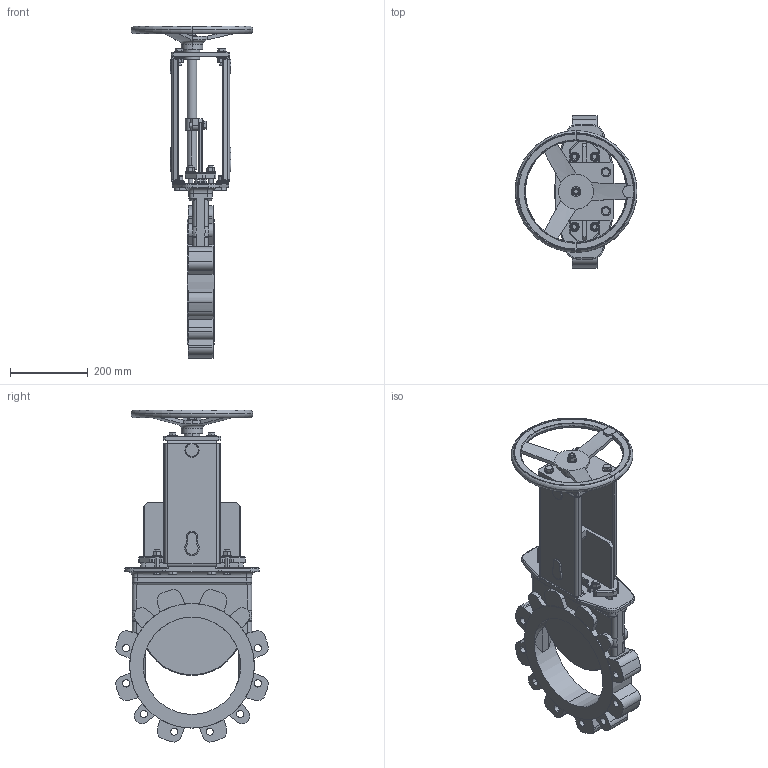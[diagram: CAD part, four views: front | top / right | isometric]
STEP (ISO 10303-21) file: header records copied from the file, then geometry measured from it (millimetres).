
FILE_DESCRIPTION(('STEP AP203'),'1');
FILE_NAME('G:/KONSTRUK/3-d block för CD/WB VALVE/HAND WHEEL/250/WB14-DN250-HW.stp','2012-11-30T13:15:30',(' '),(' '),'Spatial InterOp 3D',' ',' ');
FILE_SCHEMA(('CONFIG_CONTROL_DESIGN'));
Length unit declared in the file: millimetre
Products named in the file (7): 1; 2; 3; 4; 5; 6; 7
Bounding box: 313 x 391.52 x 852.46 mm (x, y, z)
Volume: 7868295.9 mm3; surface area: 1089773.7 mm2
Topology: 7 solids, 15 shells, 1257 faces, 3051 edges, 1902 vertices
Faces by surface type: plane 501, cylinder 421, cone 241, torus 78, sphere 8, bspline 8
Entity records: 42109 total; most frequent: CARTESIAN_POINT 12049, DIRECTION 6447, ORIENTED_EDGE 6086, EDGE_CURVE 3043, AXIS2_PLACEMENT_3D 2552, VERTEX_POINT 1902, EDGE_LOOP 1401, LINE 1343
